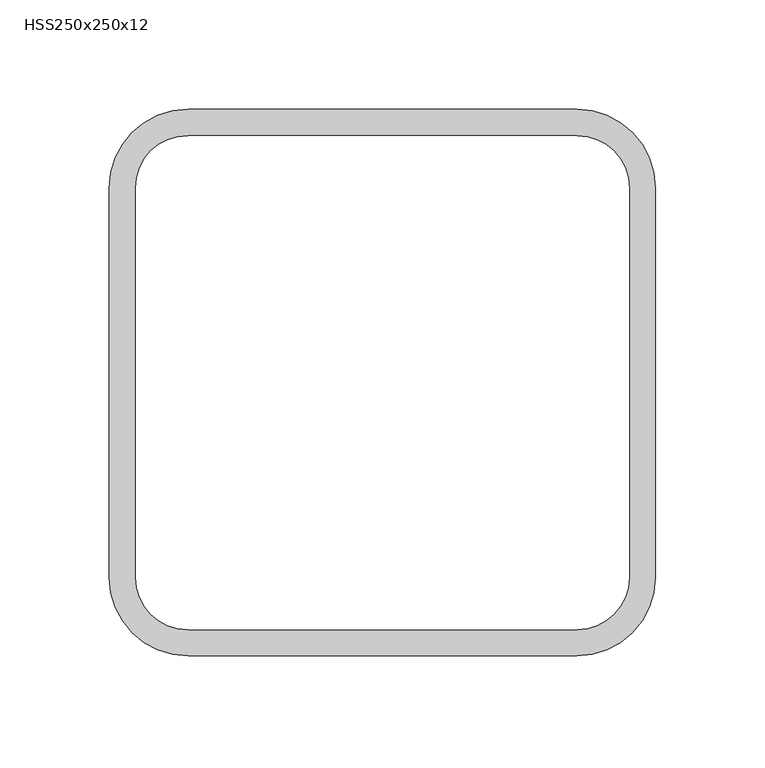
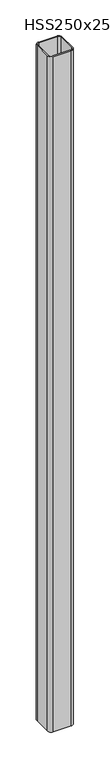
"""IFC4 building model written with IfcOpenShell, lengths in millimetres: column geometry, 正方型鋼管-柱 : HSS250x250x12."""

from ifc_helpers import new_model, si_unit, point, frame, frame_2d, origin, place, context, project, spatial, polyline, circle_curve, trimmed, segment, composite_curve, outline, extrude, source, transform, mapped, element, save


def hss250x250x12_d809ddac(model_context):
    return source(origin(), model_context, "Body", "SweptSolid", [
        extrude(outline(composite_curve([segment(trimmed(circle_curve(frame_2d((89.0, 89.0)), 36.0), [point((89.0, 125.0))], [point((125.0, 89.0))], False, "CARTESIAN"), True, "CONTINUOUS"), segment(polyline([(125.0, 89.0), (125.0, -89.0)]), True, "CONTINUOUS"), segment(trimmed(circle_curve(frame_2d((89.0, -89.0)), 36.0), [point((125.0, -89.0))], [point((89.0, -125.0))], False, "CARTESIAN"), True, "CONTINUOUS"), segment(polyline([(89.0, -125.0), (-89.0, -125.0)]), True, "CONTINUOUS"), segment(trimmed(circle_curve(frame_2d((-89.0, -89.0)), 36.0), [point((-89.0, -125.0))], [point((-125.0, -89.0))], False, "CARTESIAN"), True, "CONTINUOUS"), segment(polyline([(-125.0, -89.0), (-125.0, 89.0)]), True, "CONTINUOUS"), segment(trimmed(circle_curve(frame_2d((-89.0, 89.0)), 36.0), [point((-125.0, 89.0))], [point((-89.0, 125.0))], False, "CARTESIAN"), True, "CONTINUOUS"), segment(polyline([(-89.0, 125.0), (89.0, 125.0)]), True, "CONTINUOUS")], self_intersect=False), holes=[composite_curve([segment(polyline([(89.0, 113.0), (-89.0, 113.0)]), True, "CONTINUOUS"), segment(trimmed(circle_curve(frame_2d((-89.0, 89.0)), 24.0), [point((-89.0, 113.0))], [point((-113.0, 89.0))], True, "CARTESIAN"), True, "CONTINUOUS"), segment(polyline([(-113.0, 89.0), (-113.0, -89.0)]), True, "CONTINUOUS"), segment(trimmed(circle_curve(frame_2d((-89.0, -89.0)), 24.0), [point((-113.0, -89.0))], [point((-89.0, -113.0))], True, "CARTESIAN"), True, "CONTINUOUS"), segment(polyline([(-89.0, -113.0), (89.0, -113.0)]), True, "CONTINUOUS"), segment(trimmed(circle_curve(frame_2d((89.0, -89.0)), 24.0), [point((89.0, -113.0))], [point((113.0, -89.0))], True, "CARTESIAN"), True, "CONTINUOUS"), segment(polyline([(113.0, -89.0), (113.0, 89.0)]), True, "CONTINUOUS"), segment(trimmed(circle_curve(frame_2d((89.0, 89.0)), 24.0), [point((113.0, 89.0))], [point((89.0, 113.0))], True, "CARTESIAN"), True, "CONTINUOUS")], self_intersect=False)]), frame((0.0, 0.0, 200.0), z_axis=(0.0, 0.0, 1.0), x_axis=(1.0, 0.0, 0.0)), (0.0, 0.0, 1.0), 7050.0),
    ])


if __name__ == "__main__":
    model = new_model("IFC4")
    model_context = context("Model", 3, world=origin())
    ifc_project = project(units=[si_unit("LENGTHUNIT", "METRE", prefix="MILLI")], contexts=[model_context])
    site = spatial("IfcSite", under=ifc_project)
    building = spatial("IfcBuilding", under=site)
    placement = place(None, origin())
    hss250x250x12_shape = hss250x250x12_d809ddac(model_context)
    element("IfcColumn", 1, ObjectType="正方型鋼管-柱 : HSS250x250x12", at=placement, inside=building, context=model_context, shape_type="MappedRepresentation", body=[
        mapped(hss250x250x12_shape, transform((0.0, 0.0, 0.0), x_axis=(1.0, 0.0, 0.0), y_axis=(0.0, 1.0, 0.0), z_axis=(0.0, 0.0, 1.0))),
    ])
    save(model, "model.ifc")
